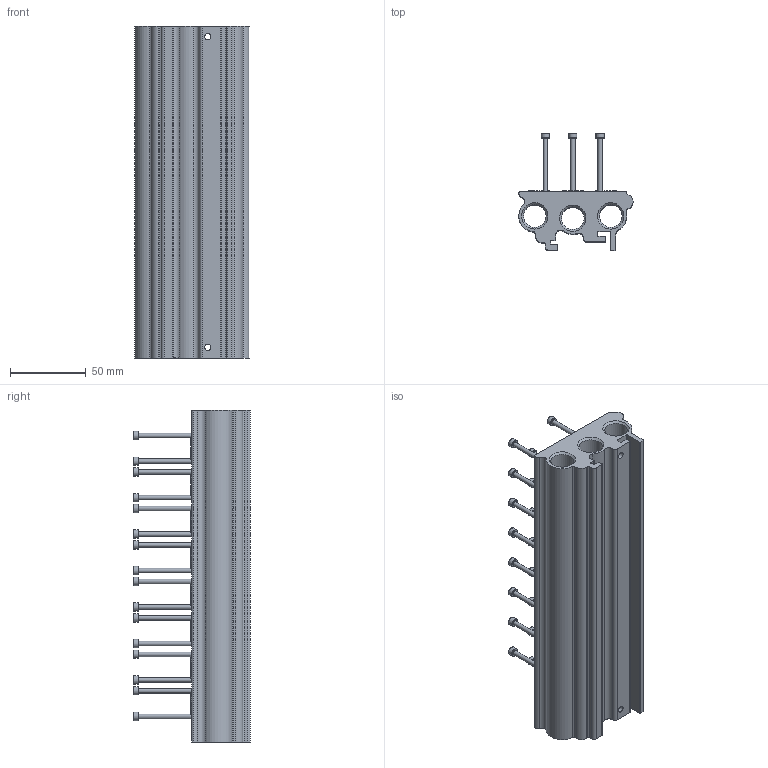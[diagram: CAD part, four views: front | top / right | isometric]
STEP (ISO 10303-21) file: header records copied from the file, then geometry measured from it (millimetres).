
FILE_DESCRIPTION (( 'STEP AP214' ), '1' );
FILE_NAME ('01VB010008A.STEP', '2013-10-04T16:13:08', ( 'ST01' ), ( '' ), 'SwSTEP 2.0', 'SolidWorks 2012', '' );
FILE_SCHEMA (( 'AUTOMOTIVE_DESIGN' ));
Length unit declared in the file: millimetre
Products named in the file (1): 01VB010008A
Bounding box: 75.23 x 76.9 x 218.6 mm (x, y, z)
Surface area: 88638 mm2 (no closed solid volume)
Topology: 0 solids, 83 shells, 528 faces, 1477 edges, 939 vertices
Faces by surface type: plane 241, cylinder 111, cone 103, torus 72, bspline 1
Full cylindrical faces by diameter (mm): 3 x24, 4.2 x2, 5.5 x24, 10.5 x2, 11 x24, 14.95 x6
Entity records: 22247 total; most frequent: CARTESIAN_POINT 4453, DIRECTION 2631, ORIENTED_EDGE 1850, EDGE_CURVE 1122, AXIS2_PLACEMENT_3D 1011, VERTEX_POINT 841, EDGE_LOOP 819, FACE_OUTER_BOUND 634
